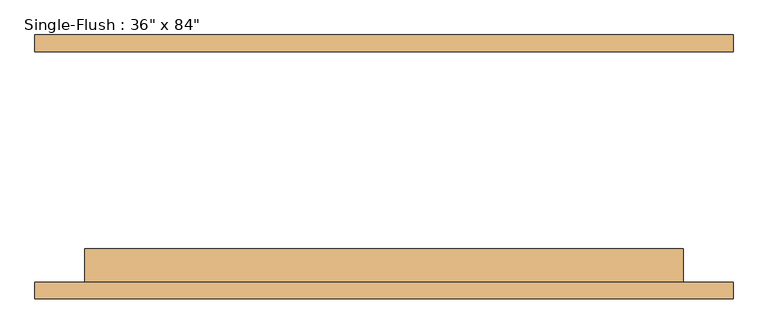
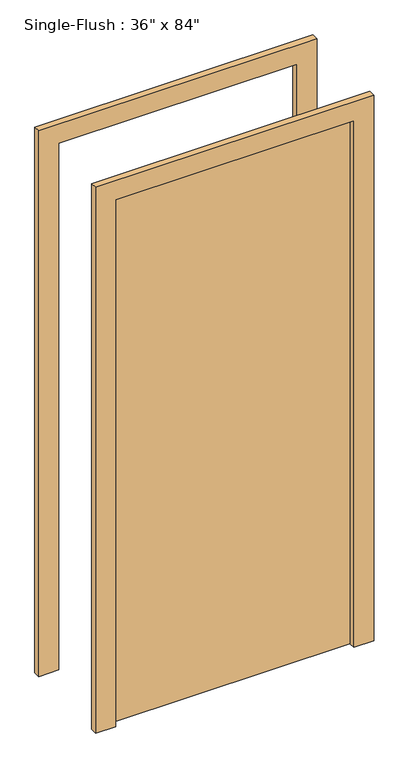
"""IFC4 building model written with IfcOpenShell, lengths in millimetres: door geometry."""

import ifcopenshell
import ifcopenshell.guid

model = None  # the IFC model being written
_history = None  # IfcOwnerHistory: only IFC2X3 demands one
_inside = {}  # id of a spatial element -> (the spatial element, [elements in it])
_under = {}  # id of a project, library or spatial element -> (it, [spatial elements below it])
_declared = {}  # id of a project -> (the project, [libraries it declares])
_typed = {}  # id of a type object -> (the type object, [elements of that type])
_made_of = {}  # id of a material, layer set ... -> (it, [elements and type objects made of it])


def new_model(schema):
    """Start an empty IFC model of exactly this schema.

    Asked for "IFC4X3", IfcOpenShell would pick the latest addendum, in which some entities
    have other attributes; the version numbers below select the first issue.
    IFC2X3 requires an IfcOwnerHistory on every rooted entity: one is made here for all.
    """
    global model, _history
    if schema == "IFC4X3":
        model = ifcopenshell.file(schema_version=(4, 3, 0, 0))
    else:
        model = ifcopenshell.file(schema=schema)
    _inside.clear()
    _under.clear()
    _declared.clear()
    _typed.clear()
    _made_of.clear()
    _history = None
    if model.schema == "IFC2X3":
        org = make("IfcOrganization", Name="unknown")
        user = make(
            "IfcPersonAndOrganization",
            ThePerson=make("IfcPerson", FamilyName="unknown"),
            TheOrganization=org,
        )
        app = make(
            "IfcApplication",
            ApplicationDeveloper=org,
            Version="unknown",
            ApplicationFullName="unknown",
            ApplicationIdentifier="unknown",
        )
        _history = make(
            "IfcOwnerHistory",
            OwningUser=user,
            OwningApplication=app,
            ChangeAction="ADDED",
            CreationDate=0,
        )
    return model


def make(cls, **values):
    """One entity of the class cls with the attributes given. An attribute that is None is left unset."""
    return model.create_entity(
        cls, **{name: value for name, value in values.items() if value is not None}
    )


def rooted(cls, **values):
    """An entity with a GlobalId (a new one), such as an element, a storey or a relation."""
    return make(cls, GlobalId=ifcopenshell.guid.new(), OwnerHistory=_history, **values)


def si_unit(unit_type, name, prefix=None):
    """IfcSIUnit, for example si_unit("LENGTHUNIT", "METRE", prefix="MILLI")."""
    return make("IfcSIUnit", UnitType=unit_type, Prefix=prefix, Name=name)


def assignment(units):
    """IfcUnitAssignment: the units of a project."""
    return None if units is None else make("IfcUnitAssignment", Units=units)


def point(xyz):
    """IfcCartesianPoint."""
    return None if xyz is None else make("IfcCartesianPoint", Coordinates=xyz)


def direction(xyz):
    """IfcDirection."""
    return None if xyz is None else make("IfcDirection", DirectionRatios=xyz)


def frame(location, z_axis=None, x_axis=None):
    """IfcAxis2Placement3D, a coordinate frame: its origin and axes. An axis left out is left unset."""
    return make(
        "IfcAxis2Placement3D",
        Location=point(location),
        Axis=direction(z_axis),
        RefDirection=direction(x_axis),
    )


def origin():
    """The frame at (0, 0, 0) with its axes left unset."""
    return frame((0.0, 0.0, 0.0))


def origin_with_axes():
    """The frame at (0, 0, 0) with the z axis (0, 0, 1) and the x axis (1, 0, 0) written out."""
    return frame((0.0, 0.0, 0.0), z_axis=(0.0, 0.0, 1.0), x_axis=(1.0, 0.0, 0.0))


def place(relative_to, where):
    """IfcLocalPlacement: puts the frame where relative to a parent placement (None: the world)."""
    return make(
        "IfcLocalPlacement", PlacementRelTo=relative_to, RelativePlacement=where
    )


def context(
    kind, dimensions, precision=None, world=None, true_north=None, identifier=None
):
    """IfcGeometricRepresentationContext, for example the 3D "Model" context."""
    return make(
        "IfcGeometricRepresentationContext",
        ContextIdentifier=identifier,
        ContextType=kind,
        CoordinateSpaceDimension=dimensions,
        Precision=precision,
        WorldCoordinateSystem=world,
        TrueNorth=true_north,
    )


def project(units=None, contexts=None):
    """IfcProject with its units and contexts."""
    return rooted(
        "IfcProject",
        Name="project",
        RepresentationContexts=contexts,
        UnitsInContext=assignment(units),
    )


def spatial(cls, under=None, at=None, **own):
    """A site, building, storey or space (cls), placed at a placement, below another one or the project."""
    s = rooted(cls, ObjectPlacement=at, **own)
    if under is not None:
        _under.setdefault(under.id(), (under, []))[1].append(s)
    return s


def polyline(points):
    """IfcPolyline through the points."""
    return make("IfcPolyline", Points=[point(p) for p in points])


def outline(outer, holes=None, kind="AREA"):
    """IfcArbitraryClosedProfileDef: a profile drawn as a closed curve; with holes, ...WithVoids."""
    if holes is None:
        return make("IfcArbitraryClosedProfileDef", ProfileType=kind, OuterCurve=outer)
    return make(
        "IfcArbitraryProfileDefWithVoids",
        ProfileType=kind,
        OuterCurve=outer,
        InnerCurves=holes,
    )


def extrude(swept, where, along, depth):
    """IfcExtrudedAreaSolid: the profile swept, set in the frame where, extruded along a direction by depth."""
    return make(
        "IfcExtrudedAreaSolid",
        SweptArea=swept,
        Position=where,
        ExtrudedDirection=direction(along),
        Depth=depth,
    )


def shape(context_of_items, identifier, shape_type, items):
    """IfcShapeRepresentation: the items that make up one representation, for example the "Body"."""
    return make(
        "IfcShapeRepresentation",
        ContextOfItems=context_of_items,
        RepresentationIdentifier=identifier,
        RepresentationType=shape_type,
        Items=items,
    )


def source(mapping_origin, context_of_items, identifier, shape_type, items):
    """IfcRepresentationMap: a shape defined once, which mapped items show again and again."""
    return make(
        "IfcRepresentationMap",
        MappingOrigin=mapping_origin,
        MappedRepresentation=shape(context_of_items, identifier, shape_type, items),
    )


def transform(
    local_origin,
    x_axis=None,
    y_axis=None,
    z_axis=None,
    scale=None,
    scale2=None,
    scale3=None,
    uniform=True,
):
    """IfcCartesianTransformationOperator3D, or its non-uniform kind. x_axis, y_axis, z_axis: its Axis1, 2, 3."""
    if uniform:
        return make(
            "IfcCartesianTransformationOperator3D",
            Axis1=direction(x_axis),
            Axis2=direction(y_axis),
            LocalOrigin=point(local_origin),
            Scale=scale,
            Axis3=direction(z_axis),
        )
    return make(
        "IfcCartesianTransformationOperator3DnonUniform",
        Axis1=direction(x_axis),
        Axis2=direction(y_axis),
        LocalOrigin=point(local_origin),
        Scale=scale,
        Axis3=direction(z_axis),
        Scale2=scale2,
        Scale3=scale3,
    )


def mapped(mapping_source, mapping_target):
    """IfcMappedItem: shows the shape of a source again, moved by a transform."""
    return make(
        "IfcMappedItem", MappingSource=mapping_source, MappingTarget=mapping_target
    )


def made_of(thing, what):
    """Note that an element or type object is made of a material, layer set ...; save() writes the relation."""
    if what is not None:
        _made_of.setdefault(what.id(), (what, []))[1].append(thing)
    return thing


def element(
    cls,
    number,
    at=None,
    inside=None,
    cuts=None,
    type_object=None,
    material=None,
    context=None,
    identifier="Body",
    shape_type=None,
    held_by="IfcProductDefinitionShape",
    body=None,
    shapes=None,
    **own,
):
    """One element of the class cls, such as IfcWall. Its Tag is "e" and its number.

    at: its placement. inside: the storey or other place that contains it. cuts: it is an
    opening in that element (IfcRelVoidsElement). A single representation is given by context,
    identifier, shape_type and body (its items); several are given by shapes. held_by: the class
    of the entity that holds the representations. save() writes the other relations.
    """
    e = rooted(cls, Tag="e%d" % number, ObjectPlacement=at, **own)
    if body is not None:
        shapes = [shape(context, identifier, shape_type, body)]
    if shapes is not None:
        e.Representation = make(held_by, Representations=shapes)
    if inside is not None:
        _inside.setdefault(inside.id(), (inside, []))[1].append(e)
    if cuts is not None:
        rooted(
            "IfcRelVoidsElement", RelatingBuildingElement=cuts, RelatedOpeningElement=e
        )
    if type_object is not None:
        _typed.setdefault(type_object.id(), (type_object, []))[1].append(e)
    return made_of(e, material)


def aggregate(whole, parts):
    """IfcRelAggregates: a whole, such as a stair, and the parts it consists of."""
    return rooted("IfcRelAggregates", RelatingObject=whole, RelatedObjects=parts)


def save(model, path):
    """Write the relations noted so far, then the file.

    IfcRelAggregates (storeys below a building ...), IfcRelContainedInSpatialStructure (elements
    in a storey), IfcRelDefinesByType, IfcRelAssociatesMaterial and IfcRelDeclares: one each for
    every whole, place, type object, material and project.
    """
    for whole, parts in _under.values():
        aggregate(whole, parts)
    for where, things in _inside.values():
        rooted(
            "IfcRelContainedInSpatialStructure",
            RelatedElements=things,
            RelatingStructure=where,
        )
    for kind, things in _typed.values():
        rooted("IfcRelDefinesByType", RelatedObjects=things, RelatingType=kind)
    for what, things in _made_of.values():
        rooted("IfcRelAssociatesMaterial", RelatedObjects=things, RelatingMaterial=what)
    for by, libraries in _declared.values():
        rooted("IfcRelDeclares", RelatingContext=by, RelatedDefinitions=libraries)
    model.write(path)


def door_cc5399a4(model_context):
    return source(origin(), model_context, "Body", "SweptSolid", [
        extrude(outline(polyline([(2209.8, -533.4), (0.0, -533.4), (0.0, -457.2), (2133.6, -457.2), (2133.6, 457.2), (0.0, 457.2), (0.0, 533.4), (2209.8, 533.4), (2209.8, -533.4)])), frame((0.0, -201.6125, 0.0), z_axis=(0.0, 1.0, 0.0), x_axis=(0.0, 0.0, 1.0)), (0.0, 0.0, 1.0), 25.4),
        extrude(outline(polyline([(2209.8, 533.4), (2209.8, -533.4), (0.0, -533.4), (0.0, -457.2), (2133.6, -457.2), (2133.6, 457.2), (0.0, 457.2), (0.0, 533.4), (2209.8, 533.4)])), frame((0.0, 176.2125, 0.0), z_axis=(0.0, 1.0, 0.0), x_axis=(0.0, 0.0, 1.0)), (0.0, 0.0, 1.0), 25.4),
        extrude(outline(polyline([(457.2, -125.4125), (457.2, -176.2125), (-457.2, -176.2125), (-457.2, -125.4125), (457.2, -125.4125)])), origin_with_axes(), (0.0, 0.0, 1.0), 2133.6),
    ])


if __name__ == "__main__":
    model = new_model("IFC4")
    model_context = context("Model", 3, world=origin())
    ifc_project = project(units=[si_unit("LENGTHUNIT", "METRE", prefix="MILLI")], contexts=[model_context])
    site = spatial("IfcSite", under=ifc_project)
    building = spatial("IfcBuilding", under=site)
    placement = place(None, origin())
    door_shape = door_cc5399a4(model_context)
    element("IfcDoor", 1, ObjectType="Single-Flush : 36\" x 84\"", at=placement, inside=building, context=model_context, shape_type="MappedRepresentation", body=[
        mapped(door_shape, transform((0.0, 0.0, 0.0), x_axis=(1.0, 0.0, 0.0), y_axis=(0.0, 1.0, 0.0), z_axis=(0.0, 0.0, 1.0))),
    ])
    save(model, "model.ifc")
